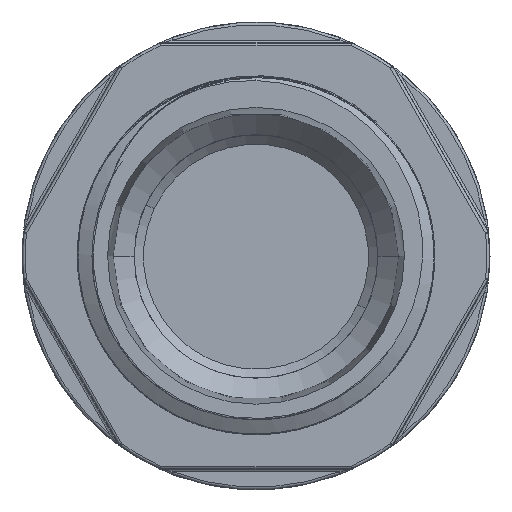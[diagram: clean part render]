
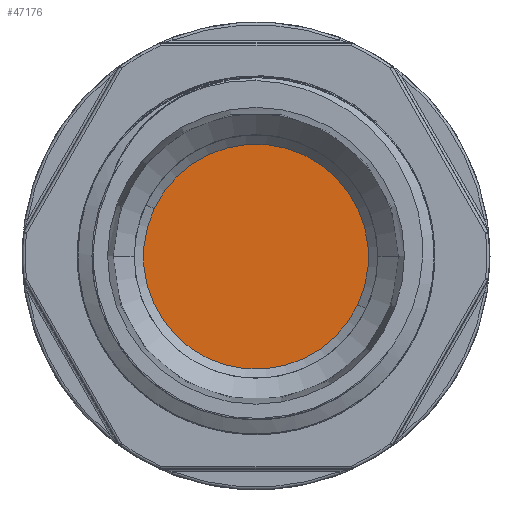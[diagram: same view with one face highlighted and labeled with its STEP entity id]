
A CAD part, top view. The second image highlights one B-rep face of the part: STEP entity #47176.
In plain terms, the highlighted planar face has unit normal (0, 0, 1) as drawn and (0, -1, 0) by its records, which use the part's own axes.
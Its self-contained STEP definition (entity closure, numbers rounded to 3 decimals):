
#1627 = EDGE_CURVE ( 'NONE', #48248, #33552, #19745, .T. ) ;
#6642 = EDGE_LOOP ( 'NONE', ( #10308, #14916 ) ) ;
#6938 = AXIS2_PLACEMENT_3D ( 'NONE', #45585, #37352, #11242 ) ;
#9396 = CARTESIAN_POINT ( 'NONE',  ( 0., 23.319, -8.435 ) ) ;
#10308 = ORIENTED_EDGE ( 'NONE', *, *, #27636, .T. ) ;
#11242 = DIRECTION ( 'NONE',  ( 0., 0., 1. ) ) ;
#14202 = CIRCLE ( 'NONE', #6938, 8.435 ) ;
#14621 = DIRECTION ( 'NONE',  ( 0., 1., 0. ) ) ;
#14916 = ORIENTED_EDGE ( 'NONE', *, *, #1627, .T. ) ;
#19145 = FACE_OUTER_BOUND ( 'NONE', #6642, .T. ) ;
#19745 = CIRCLE ( 'NONE', #40561, 8.435 ) ;
#23195 = CARTESIAN_POINT ( 'NONE',  ( 0., 23.319, 0. ) ) ;
#27636 = EDGE_CURVE ( 'NONE', #33552, #48248, #14202, .T. ) ;
#30876 = DIRECTION ( 'NONE',  ( 0., -1., 0. ) ) ;
#32176 = DIRECTION ( 'NONE',  ( 0., 0., 1. ) ) ;
#33552 = VERTEX_POINT ( 'NONE', #9396 ) ;
#37352 = DIRECTION ( 'NONE',  ( 0., -1., 0. ) ) ;
#40561 = AXIS2_PLACEMENT_3D ( 'NONE', #23195, #30876, #48205 ) ;
#41944 = CARTESIAN_POINT ( 'NONE',  ( 0., 23.319, 8.435 ) ) ;
#45585 = CARTESIAN_POINT ( 'NONE',  ( 0., 23.319, 0. ) ) ;
#47176 = ADVANCED_FACE ( 'NONE', ( #19145 ), #48388, .F. ) ;
#48205 = DIRECTION ( 'NONE',  ( 0., 0., 1. ) ) ;
#48248 = VERTEX_POINT ( 'NONE', #41944 ) ;
#48388 = PLANE ( 'NONE',  #54237 ) ;
#53501 = CARTESIAN_POINT ( 'NONE',  ( 0., 23.319, 0. ) ) ;
#54237 = AXIS2_PLACEMENT_3D ( 'NONE', #53501, #14621, #32176 ) ;
